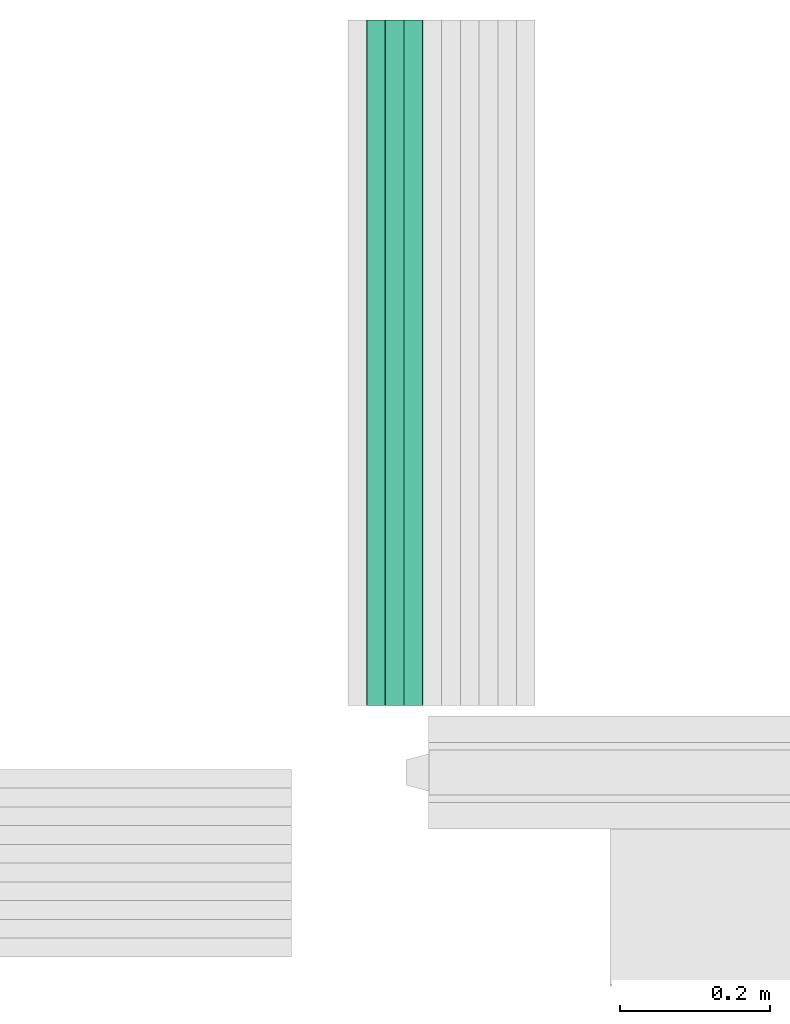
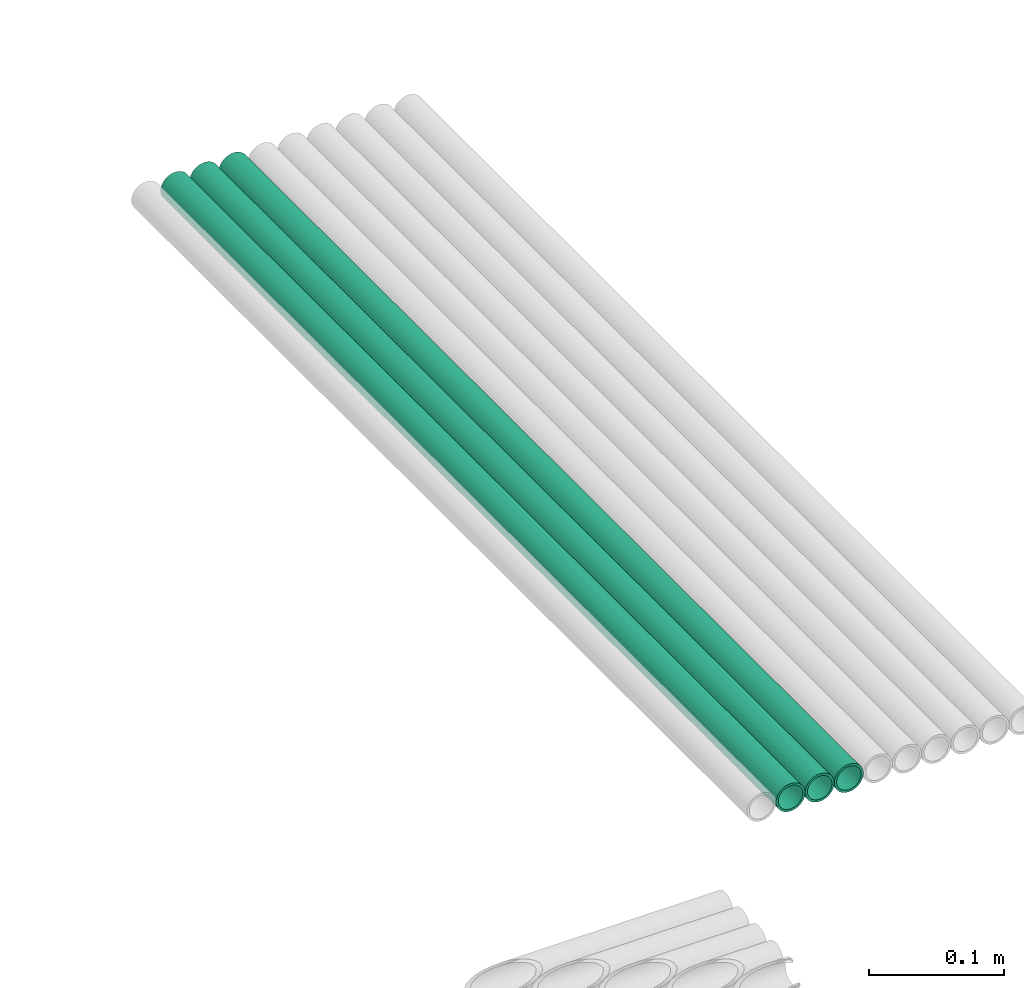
# One storey, part 12 of 14: 3 flow segments.
"""IFC2X3 building model written with IfcOpenShell, lengths in millimetres."""

from ifc_helpers import new_model, entity, si_unit, converted_unit, derived_unit, direction, frame, place, context, subcontext, project, spatial, faceted_brep, type_object, element, save


model = new_model("IFC2X3")

# Units and contexts
model_context = context("Model", 3, precision=0.01, world=frame((0.0, 4.29681676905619e-09, 0.0)), true_north=direction((4.01073788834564e-13, 1.0)))
plan_context = context("Plan", 3, precision=0.01, world=frame((0.0, 4.29681676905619e-09, 0.0)), true_north=direction((4.01073788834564e-13, 1.0)))
body_context = subcontext(model_context, "Body", "Model", "MODEL_VIEW")
ifc_project = project(units=[converted_unit("PLANEANGLEUNIT", "DEGREE", entity("IfcPositiveLengthMeasure", 0.0174532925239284), si_unit("PLANEANGLEUNIT", "RADIAN"), dimensions=[0, 0, 0, 0, 0, 0, 0]), si_unit("AREAUNIT", "SQUARE_METRE"), si_unit("LENGTHUNIT", "METRE", prefix="MILLI"), si_unit("MASSUNIT", "GRAM", prefix="KILO"), si_unit("POWERUNIT", "WATT"), si_unit("PRESSUREUNIT", "PASCAL", prefix="KILO"), si_unit("FORCEUNIT", "NEWTON", prefix="KILO"), si_unit("ELECTRICVOLTAGEUNIT", "VOLT"), si_unit("ELECTRICCURRENTUNIT", "AMPERE"), si_unit("THERMODYNAMICTEMPERATUREUNIT", "DEGREE_CELSIUS"), si_unit("TIMEUNIT", "SECOND"), si_unit("VOLUMEUNIT", "CUBIC_METRE"), derived_unit("LINEARVELOCITYUNIT", [(si_unit("LENGTHUNIT", "METRE"), 1), (si_unit("TIMEUNIT", "SECOND"), -1)]), derived_unit("VOLUMETRICFLOWRATEUNIT", [(si_unit("VOLUMEUNIT", "CUBIC_METRE"), 1), (si_unit("TIMEUNIT", "SECOND"), -1)]), derived_unit("THERMALTRANSMITTANCEUNIT", [(si_unit("POWERUNIT", "WATT"), 1), (si_unit("THERMODYNAMICTEMPERATUREUNIT", "KELVIN"), -1), (si_unit("AREAUNIT", "SQUARE_METRE"), -1)]), derived_unit("SOUNDPRESSUREUNIT", [(si_unit("PRESSUREUNIT", "PASCAL"), 1)])], contexts=[model_context, plan_context])

# Site, building, storey
site_placement = place(None, frame((0.0, -4.29681676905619e-09, 0.0), z_axis=(0.0, 0.0, 1.0), x_axis=(1.0, 0.0, 0.0)))
site = spatial("IfcSite", under=ifc_project, at=site_placement, Name="ENGM", CompositionType="ELEMENT")
building_placement = place(site_placement, frame((0.0, 4.29681676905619e-09, 0.0), z_axis=(0.0, 0.0, 1.0), x_axis=(1.0, 0.0, 0.0)))
building = spatial("IfcBuilding", under=site, at=building_placement, Name="TG", CompositionType="ELEMENT")
storey_placement = place(building_placement, frame((0.0, 0.0, 205200.0), z_axis=(0.0, 0.0, 1.0), x_axis=(1.0, 0.0, 0.0)))
storey = spatial("IfcBuildingStorey", under=building, at=storey_placement, Name="Nivå D + 1,2", CompositionType="ELEMENT", Elevation=205200.0)

# Flow segments
cable_carrier_segment_type = type_object("IfcCableCarrierSegmentType", Name="Conduit", PredefinedType="CONDUITSEGMENT")
flow_segment_1_placement = place(storey_placement, frame((332457.4875, 476415.04, 4970.0), z_axis=(0.0, 0.0, 1.0), x_axis=(0.0, -1.0, 0.0)))
element("IfcFlowSegment", 1, at=flow_segment_1_placement, inside=storey, type_object=cable_carrier_segment_type, Name="Conduit", context=body_context, shape_type="Brep", body=[
    faceted_brep([(8915.04000000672, 10.3404814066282, -1.82330586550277), (8915.04000000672, 10.5, 0.0), (9830.0, 10.5, 0.0), (9830.0, 10.3404814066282, -1.82330586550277), (8915.04000000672, 9.86677251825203, -3.59121150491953), (9830.0, 9.86677251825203, -3.59121150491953), (8915.04000000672, 9.0932667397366, -5.25), (9830.0, 9.0932667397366, -5.25), (8915.04000000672, 8.04346665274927, -6.74926990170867), (9830.0, 8.04346665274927, -6.74926990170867), (8915.04000000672, 6.74926990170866, -8.04346665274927), (9830.0, 6.74926990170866, -8.04346665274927), (8915.04000000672, 5.25, -9.09326673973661), (9830.0, 5.25, -9.09326673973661), (8915.04000000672, 3.59121150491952, -9.86677251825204), (9830.0, 3.59121150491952, -9.86677251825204), (8915.04000000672, 1.82330586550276, -10.3404814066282), (9830.0, 1.82330586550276, -10.3404814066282), (8915.04000000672, -1.92881870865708e-15, -10.5), (9830.0, -1.92881870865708e-15, -10.5), (8915.04000000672, -1.82330586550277, -10.3404814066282), (9830.0, -1.82330586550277, -10.3404814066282), (8915.04000000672, -3.59121150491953, -9.86677251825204), (9830.0, -3.59121150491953, -9.86677251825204), (8915.04000000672, -5.25, -9.0932667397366), (9830.0, -5.25, -9.0932667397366), (8915.04000000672, -6.74926990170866, -8.04346665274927), (9830.0, -6.74926990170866, -8.04346665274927), (8915.04000000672, -8.04346665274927, -6.74926990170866), (9830.0, -8.04346665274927, -6.74926990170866), (8915.04000000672, -9.09326673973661, -5.25), (9830.0, -9.09326673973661, -5.25), (8915.04000000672, -9.86677251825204, -3.59121150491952), (9830.0, -9.86677251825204, -3.59121150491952), (8915.04000000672, -10.3404814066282, -1.82330586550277), (9830.0, -10.3404814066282, -1.82330586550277), (8915.04000000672, -10.5, 1.28587913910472e-15), (9830.0, -10.5, 1.28587913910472e-15), (8915.04000000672, -10.3404814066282, 1.82330586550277), (9830.0, -10.3404814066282, 1.82330586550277), (8915.04000000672, -9.86677251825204, 3.59121150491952), (9830.0, -9.86677251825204, 3.59121150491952), (8915.04000000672, -9.09326673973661, 5.25), (9830.0, -9.09326673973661, 5.25), (8915.04000000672, -8.04346665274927, 6.74926990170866), (9830.0, -8.04346665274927, 6.74926990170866), (8915.04000000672, -6.74926990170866, 8.04346665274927), (9830.0, -6.74926990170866, 8.04346665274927), (8915.04000000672, -5.25, 9.09326673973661), (9830.0, -5.25, 9.09326673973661), (8915.04000000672, -3.59121150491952, 9.86677251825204), (9830.0, -3.59121150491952, 9.86677251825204), (8915.04000000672, -1.82330586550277, 10.3404814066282), (9830.0, -1.82330586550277, 10.3404814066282), (8915.04000000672, 6.4293956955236e-16, 10.5), (9830.0, 6.4293956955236e-16, 10.5), (8915.04000000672, 1.82330586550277, 10.3404814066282), (9830.0, 1.82330586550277, 10.3404814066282), (8915.04000000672, 3.59121150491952, 9.86677251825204), (9830.0, 3.59121150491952, 9.86677251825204), (8915.04000000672, 5.25, 9.09326673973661), (9830.0, 5.25, 9.09326673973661), (8915.04000000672, 6.74926990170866, 8.04346665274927), (9830.0, 6.74926990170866, 8.04346665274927), (8915.04000000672, 8.04346665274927, 6.74926990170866), (9830.0, 8.04346665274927, 6.74926990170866), (8915.04000000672, 9.09326673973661, 5.25), (9830.0, 9.09326673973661, 5.25), (8915.04000000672, 9.86677251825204, 3.59121150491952), (9830.0, 9.86677251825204, 3.59121150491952), (8915.04000000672, 10.3404814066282, 1.82330586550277), (9830.0, 10.3404814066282, 1.82330586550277), (8915.04000000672, 12.5, 0.0), (8915.04000000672, 12.3100969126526, -2.17060222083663), (9830.0, 12.3100969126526, -2.17060222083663), (9830.0, 12.5, 0.0), (8915.04000000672, 12.3100969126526, 2.17060222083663), (9830.0, 12.3100969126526, 2.17060222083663), (8915.04000000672, 11.7461577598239, 4.27525179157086), (9830.0, 11.7461577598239, 4.27525179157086), (8915.04000000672, 10.8253175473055, 6.25), (9830.0, 10.8253175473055, 6.25), (8915.04000000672, 9.57555553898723, 8.03484512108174), (9830.0, 9.57555553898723, 8.03484512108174), (8915.04000000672, 8.03484512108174, 9.57555553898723), (9830.0, 8.03484512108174, 9.57555553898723), (8915.04000000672, 6.25, 10.8253175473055), (9830.0, 6.25, 10.8253175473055), (8915.04000000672, 4.27525179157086, 11.7461577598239), (9830.0, 4.27525179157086, 11.7461577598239), (8915.04000000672, 2.17060222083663, 12.3100969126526), (9830.0, 2.17060222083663, 12.3100969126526), (8915.04000000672, 7.65404249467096e-16, 12.5), (9830.0, 7.65404249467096e-16, 12.5), (8915.04000000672, -2.17060222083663, 12.3100969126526), (9830.0, -2.17060222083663, 12.3100969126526), (8915.04000000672, -4.27525179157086, 11.7461577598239), (9830.0, -4.27525179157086, 11.7461577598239), (8915.04000000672, -6.25, 10.8253175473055), (9830.0, -6.25, 10.8253175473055), (8915.04000000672, -8.03484512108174, 9.57555553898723), (9830.0, -8.03484512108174, 9.57555553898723), (8915.04000000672, -9.57555553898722, 8.03484512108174), (9830.0, -9.57555553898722, 8.03484512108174), (8915.04000000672, -10.8253175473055, 6.25), (9830.0, -10.8253175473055, 6.25), (8915.04000000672, -11.7461577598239, 4.27525179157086), (9830.0, -11.7461577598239, 4.27525179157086), (8915.04000000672, -12.3100969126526, 2.17060222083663), (9830.0, -12.3100969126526, 2.17060222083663), (8915.04000000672, -12.5, 1.53080849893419e-15), (9830.0, -12.5, 1.53080849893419e-15), (8915.04000000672, -12.3100969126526, -2.17060222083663), (9830.0, -12.3100969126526, -2.17060222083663), (8915.04000000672, -11.7461577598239, -4.27525179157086), (9830.0, -11.7461577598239, -4.27525179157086), (8915.04000000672, -10.8253175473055, -6.25), (9830.0, -10.8253175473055, -6.25), (8915.04000000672, -9.57555553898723, -8.03484512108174), (9830.0, -9.57555553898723, -8.03484512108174), (8915.04000000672, -8.03484512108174, -9.57555553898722), (9830.0, -8.03484512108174, -9.57555553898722), (8915.04000000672, -6.25000000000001, -10.8253175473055), (9830.0, -6.25000000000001, -10.8253175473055), (8915.04000000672, -4.27525179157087, -11.7461577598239), (9830.0, -4.27525179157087, -11.7461577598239), (8915.04000000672, -2.17060222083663, -12.3100969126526), (9830.0, -2.17060222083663, -12.3100969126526), (8915.04000000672, -2.29621274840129e-15, -12.5), (9830.0, -2.29621274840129e-15, -12.5), (8915.04000000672, 2.17060222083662, -12.3100969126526), (9830.0, 2.17060222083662, -12.3100969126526), (8915.04000000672, 4.27525179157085, -11.7461577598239), (9830.0, 4.27525179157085, -11.7461577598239), (8915.04000000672, 6.25, -10.8253175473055), (9830.0, 6.25, -10.8253175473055), (8915.04000000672, 8.03484512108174, -9.57555553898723), (9830.0, 8.03484512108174, -9.57555553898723), (8915.04000000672, 9.57555553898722, -8.03484512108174), (9830.0, 9.57555553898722, -8.03484512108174), (8915.04000000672, 10.8253175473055, -6.25000000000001), (9830.0, 10.8253175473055, -6.25000000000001), (8915.04000000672, 11.7461577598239, -4.27525179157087), (9830.0, 11.7461577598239, -4.27525179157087)], [[[0, 1, 2, 3]], [[4, 0, 3, 5]], [[6, 4, 5, 7]], [[8, 6, 7, 9]], [[10, 8, 9, 11]], [[12, 10, 11, 13]], [[14, 12, 13, 15]], [[16, 14, 15, 17]], [[18, 16, 17, 19]], [[20, 18, 19, 21]], [[22, 20, 21, 23]], [[24, 22, 23, 25]], [[26, 24, 25, 27]], [[28, 26, 27, 29]], [[30, 28, 29, 31]], [[32, 30, 31, 33]], [[34, 32, 33, 35]], [[36, 34, 35, 37]], [[38, 36, 37, 39]], [[40, 38, 39, 41]], [[42, 40, 41, 43]], [[44, 42, 43, 45]], [[46, 44, 45, 47]], [[48, 46, 47, 49]], [[50, 48, 49, 51]], [[52, 50, 51, 53]], [[54, 52, 53, 55]], [[56, 54, 55, 57]], [[58, 56, 57, 59]], [[60, 58, 59, 61]], [[62, 60, 61, 63]], [[64, 62, 63, 65]], [[66, 64, 65, 67]], [[68, 66, 67, 69]], [[70, 68, 69, 71]], [[1, 70, 71, 2]], [[72, 73, 74, 75]], [[76, 72, 75, 77]], [[78, 76, 77, 79]], [[80, 78, 79, 81]], [[82, 80, 81, 83]], [[84, 82, 83, 85]], [[86, 84, 85, 87]], [[88, 86, 87, 89]], [[90, 88, 89, 91]], [[92, 90, 91, 93]], [[94, 92, 93, 95]], [[96, 94, 95, 97]], [[98, 96, 97, 99]], [[100, 98, 99, 101]], [[102, 100, 101, 103]], [[104, 102, 103, 105]], [[106, 104, 105, 107]], [[108, 106, 107, 109]], [[110, 108, 109, 111]], [[112, 110, 111, 113]], [[114, 112, 113, 115]], [[116, 114, 115, 117]], [[118, 116, 117, 119]], [[120, 118, 119, 121]], [[122, 120, 121, 123]], [[124, 122, 123, 125]], [[126, 124, 125, 127]], [[128, 126, 127, 129]], [[130, 128, 129, 131]], [[132, 130, 131, 133]], [[134, 132, 133, 135]], [[136, 134, 135, 137]], [[138, 136, 137, 139]], [[140, 138, 139, 141]], [[142, 140, 141, 143]], [[73, 142, 143, 74]], [[75, 74, 143, 141, 139, 137, 135, 133, 131, 129, 127, 125, 123, 121, 119, 117, 115, 113, 111, 109, 107, 105, 103, 101, 99, 97, 95, 93, 91, 89, 87, 85, 83, 81, 79, 77], [2, 71, 69, 67, 65, 63, 61, 59, 57, 55, 53, 51, 49, 47, 45, 43, 41, 39, 37, 35, 33, 31, 29, 27, 25, 23, 21, 19, 17, 15, 13, 11, 9, 7, 5, 3]], [[76, 78, 80, 82, 84, 86, 88, 90, 92, 94, 96, 98, 100, 102, 104, 106, 108, 110, 112, 114, 116, 118, 120, 122, 124, 126, 128, 130, 132, 134, 136, 138, 140, 142, 73, 72], [4, 6, 8, 10, 12, 14, 16, 18, 20, 22, 24, 26, 28, 30, 32, 34, 36, 38, 40, 42, 44, 46, 48, 50, 52, 54, 56, 58, 60, 62, 64, 66, 68, 70, 1, 0]]], orient=[[False], [False], [False], [False], [False], [False], [False], [False], [False], [False], [False], [False], [False], [False], [False], [False], [False], [False], [False], [False], [False], [False], [False], [False], [False], [False], [False], [False], [False], [False], [False], [False], [False], [False], [False], [False], [False], [False], [False], [False], [False], [False], [False], [False], [False], [False], [False], [False], [False], [False], [False], [False], [False], [False], [False], [False], [False], [False], [False], [False], [False], [False], [False], [False], [False], [False], [False], [False], [False], [False], [False], [False], [False, False], [False, False]]),
])
flow_segment_2_placement = place(storey_placement, frame((332432.4875, 476415.04, 4970.0), z_axis=(0.0, 0.0, 1.0), x_axis=(0.0, -1.0, 0.0)))
element("IfcFlowSegment", 2, at=flow_segment_2_placement, inside=storey, type_object=cable_carrier_segment_type, Name="Conduit", context=body_context, shape_type="Brep", body=[
    faceted_brep([(8915.04000000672, 10.3404814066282, -1.82330586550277), (8915.04000000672, 10.5, 0.0), (9830.0, 10.5, 0.0), (9830.0, 10.3404814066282, -1.82330586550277), (8915.04000000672, 9.86677251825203, -3.59121150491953), (9830.0, 9.86677251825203, -3.59121150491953), (8915.04000000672, 9.0932667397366, -5.25), (9830.0, 9.0932667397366, -5.25), (8915.04000000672, 8.04346665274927, -6.74926990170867), (9830.0, 8.04346665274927, -6.74926990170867), (8915.04000000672, 6.74926990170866, -8.04346665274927), (9830.0, 6.74926990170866, -8.04346665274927), (8915.04000000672, 5.25, -9.09326673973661), (9830.0, 5.25, -9.09326673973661), (8915.04000000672, 3.59121150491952, -9.86677251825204), (9830.0, 3.59121150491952, -9.86677251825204), (8915.04000000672, 1.82330586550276, -10.3404814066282), (9830.0, 1.82330586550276, -10.3404814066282), (8915.04000000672, -1.92881870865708e-15, -10.5), (9830.0, -1.92881870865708e-15, -10.5), (8915.04000000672, -1.82330586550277, -10.3404814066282), (9830.0, -1.82330586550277, -10.3404814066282), (8915.04000000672, -3.59121150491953, -9.86677251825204), (9830.0, -3.59121150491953, -9.86677251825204), (8915.04000000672, -5.25, -9.0932667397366), (9830.0, -5.25, -9.0932667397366), (8915.04000000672, -6.74926990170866, -8.04346665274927), (9830.0, -6.74926990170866, -8.04346665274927), (8915.04000000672, -8.04346665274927, -6.74926990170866), (9830.0, -8.04346665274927, -6.74926990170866), (8915.04000000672, -9.09326673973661, -5.25), (9830.0, -9.09326673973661, -5.25), (8915.04000000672, -9.86677251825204, -3.59121150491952), (9830.0, -9.86677251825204, -3.59121150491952), (8915.04000000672, -10.3404814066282, -1.82330586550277), (9830.0, -10.3404814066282, -1.82330586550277), (8915.04000000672, -10.5, 1.28587913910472e-15), (9830.0, -10.5, 1.28587913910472e-15), (8915.04000000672, -10.3404814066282, 1.82330586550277), (9830.0, -10.3404814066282, 1.82330586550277), (8915.04000000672, -9.86677251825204, 3.59121150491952), (9830.0, -9.86677251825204, 3.59121150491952), (8915.04000000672, -9.09326673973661, 5.25), (9830.0, -9.09326673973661, 5.25), (8915.04000000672, -8.04346665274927, 6.74926990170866), (9830.0, -8.04346665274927, 6.74926990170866), (8915.04000000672, -6.74926990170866, 8.04346665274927), (9830.0, -6.74926990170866, 8.04346665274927), (8915.04000000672, -5.25, 9.09326673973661), (9830.0, -5.25, 9.09326673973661), (8915.04000000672, -3.59121150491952, 9.86677251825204), (9830.0, -3.59121150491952, 9.86677251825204), (8915.04000000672, -1.82330586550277, 10.3404814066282), (9830.0, -1.82330586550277, 10.3404814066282), (8915.04000000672, 6.4293956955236e-16, 10.5), (9830.0, 6.4293956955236e-16, 10.5), (8915.04000000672, 1.82330586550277, 10.3404814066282), (9830.0, 1.82330586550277, 10.3404814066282), (8915.04000000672, 3.59121150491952, 9.86677251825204), (9830.0, 3.59121150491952, 9.86677251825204), (8915.04000000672, 5.25, 9.09326673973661), (9830.0, 5.25, 9.09326673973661), (8915.04000000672, 6.74926990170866, 8.04346665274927), (9830.0, 6.74926990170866, 8.04346665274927), (8915.04000000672, 8.04346665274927, 6.74926990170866), (9830.0, 8.04346665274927, 6.74926990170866), (8915.04000000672, 9.09326673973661, 5.25), (9830.0, 9.09326673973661, 5.25), (8915.04000000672, 9.86677251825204, 3.59121150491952), (9830.0, 9.86677251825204, 3.59121150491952), (8915.04000000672, 10.3404814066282, 1.82330586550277), (9830.0, 10.3404814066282, 1.82330586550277), (8915.04000000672, 12.5, 0.0), (8915.04000000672, 12.3100969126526, -2.17060222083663), (9830.0, 12.3100969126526, -2.17060222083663), (9830.0, 12.5, 0.0), (8915.04000000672, 12.3100969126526, 2.17060222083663), (9830.0, 12.3100969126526, 2.17060222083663), (8915.04000000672, 11.7461577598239, 4.27525179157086), (9830.0, 11.7461577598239, 4.27525179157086), (8915.04000000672, 10.8253175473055, 6.25), (9830.0, 10.8253175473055, 6.25), (8915.04000000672, 9.57555553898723, 8.03484512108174), (9830.0, 9.57555553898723, 8.03484512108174), (8915.04000000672, 8.03484512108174, 9.57555553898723), (9830.0, 8.03484512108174, 9.57555553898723), (8915.04000000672, 6.25, 10.8253175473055), (9830.0, 6.25, 10.8253175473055), (8915.04000000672, 4.27525179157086, 11.7461577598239), (9830.0, 4.27525179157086, 11.7461577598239), (8915.04000000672, 2.17060222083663, 12.3100969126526), (9830.0, 2.17060222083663, 12.3100969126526), (8915.04000000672, 7.65404249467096e-16, 12.5), (9830.0, 7.65404249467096e-16, 12.5), (8915.04000000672, -2.17060222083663, 12.3100969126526), (9830.0, -2.17060222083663, 12.3100969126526), (8915.04000000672, -4.27525179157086, 11.7461577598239), (9830.0, -4.27525179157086, 11.7461577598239), (8915.04000000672, -6.25, 10.8253175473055), (9830.0, -6.25, 10.8253175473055), (8915.04000000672, -8.03484512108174, 9.57555553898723), (9830.0, -8.03484512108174, 9.57555553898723), (8915.04000000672, -9.57555553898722, 8.03484512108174), (9830.0, -9.57555553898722, 8.03484512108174), (8915.04000000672, -10.8253175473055, 6.25), (9830.0, -10.8253175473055, 6.25), (8915.04000000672, -11.7461577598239, 4.27525179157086), (9830.0, -11.7461577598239, 4.27525179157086), (8915.04000000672, -12.3100969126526, 2.17060222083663), (9830.0, -12.3100969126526, 2.17060222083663), (8915.04000000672, -12.5, 1.53080849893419e-15), (9830.0, -12.5, 1.53080849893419e-15), (8915.04000000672, -12.3100969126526, -2.17060222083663), (9830.0, -12.3100969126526, -2.17060222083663), (8915.04000000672, -11.7461577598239, -4.27525179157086), (9830.0, -11.7461577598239, -4.27525179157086), (8915.04000000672, -10.8253175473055, -6.25), (9830.0, -10.8253175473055, -6.25), (8915.04000000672, -9.57555553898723, -8.03484512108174), (9830.0, -9.57555553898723, -8.03484512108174), (8915.04000000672, -8.03484512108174, -9.57555553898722), (9830.0, -8.03484512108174, -9.57555553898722), (8915.04000000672, -6.25000000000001, -10.8253175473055), (9830.0, -6.25000000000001, -10.8253175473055), (8915.04000000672, -4.27525179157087, -11.7461577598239), (9830.0, -4.27525179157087, -11.7461577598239), (8915.04000000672, -2.17060222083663, -12.3100969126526), (9830.0, -2.17060222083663, -12.3100969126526), (8915.04000000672, -2.29621274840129e-15, -12.5), (9830.0, -2.29621274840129e-15, -12.5), (8915.04000000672, 2.17060222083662, -12.3100969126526), (9830.0, 2.17060222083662, -12.3100969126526), (8915.04000000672, 4.27525179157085, -11.7461577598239), (9830.0, 4.27525179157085, -11.7461577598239), (8915.04000000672, 6.25, -10.8253175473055), (9830.0, 6.25, -10.8253175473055), (8915.04000000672, 8.03484512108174, -9.57555553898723), (9830.0, 8.03484512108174, -9.57555553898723), (8915.04000000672, 9.57555553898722, -8.03484512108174), (9830.0, 9.57555553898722, -8.03484512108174), (8915.04000000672, 10.8253175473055, -6.25000000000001), (9830.0, 10.8253175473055, -6.25000000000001), (8915.04000000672, 11.7461577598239, -4.27525179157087), (9830.0, 11.7461577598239, -4.27525179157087)], [[[0, 1, 2, 3]], [[4, 0, 3, 5]], [[6, 4, 5, 7]], [[8, 6, 7, 9]], [[10, 8, 9, 11]], [[12, 10, 11, 13]], [[14, 12, 13, 15]], [[16, 14, 15, 17]], [[18, 16, 17, 19]], [[20, 18, 19, 21]], [[22, 20, 21, 23]], [[24, 22, 23, 25]], [[26, 24, 25, 27]], [[28, 26, 27, 29]], [[30, 28, 29, 31]], [[32, 30, 31, 33]], [[34, 32, 33, 35]], [[36, 34, 35, 37]], [[38, 36, 37, 39]], [[40, 38, 39, 41]], [[42, 40, 41, 43]], [[44, 42, 43, 45]], [[46, 44, 45, 47]], [[48, 46, 47, 49]], [[50, 48, 49, 51]], [[52, 50, 51, 53]], [[54, 52, 53, 55]], [[56, 54, 55, 57]], [[58, 56, 57, 59]], [[60, 58, 59, 61]], [[62, 60, 61, 63]], [[64, 62, 63, 65]], [[66, 64, 65, 67]], [[68, 66, 67, 69]], [[70, 68, 69, 71]], [[1, 70, 71, 2]], [[72, 73, 74, 75]], [[76, 72, 75, 77]], [[78, 76, 77, 79]], [[80, 78, 79, 81]], [[82, 80, 81, 83]], [[84, 82, 83, 85]], [[86, 84, 85, 87]], [[88, 86, 87, 89]], [[90, 88, 89, 91]], [[92, 90, 91, 93]], [[94, 92, 93, 95]], [[96, 94, 95, 97]], [[98, 96, 97, 99]], [[100, 98, 99, 101]], [[102, 100, 101, 103]], [[104, 102, 103, 105]], [[106, 104, 105, 107]], [[108, 106, 107, 109]], [[110, 108, 109, 111]], [[112, 110, 111, 113]], [[114, 112, 113, 115]], [[116, 114, 115, 117]], [[118, 116, 117, 119]], [[120, 118, 119, 121]], [[122, 120, 121, 123]], [[124, 122, 123, 125]], [[126, 124, 125, 127]], [[128, 126, 127, 129]], [[130, 128, 129, 131]], [[132, 130, 131, 133]], [[134, 132, 133, 135]], [[136, 134, 135, 137]], [[138, 136, 137, 139]], [[140, 138, 139, 141]], [[142, 140, 141, 143]], [[73, 142, 143, 74]], [[75, 74, 143, 141, 139, 137, 135, 133, 131, 129, 127, 125, 123, 121, 119, 117, 115, 113, 111, 109, 107, 105, 103, 101, 99, 97, 95, 93, 91, 89, 87, 85, 83, 81, 79, 77], [2, 71, 69, 67, 65, 63, 61, 59, 57, 55, 53, 51, 49, 47, 45, 43, 41, 39, 37, 35, 33, 31, 29, 27, 25, 23, 21, 19, 17, 15, 13, 11, 9, 7, 5, 3]], [[76, 78, 80, 82, 84, 86, 88, 90, 92, 94, 96, 98, 100, 102, 104, 106, 108, 110, 112, 114, 116, 118, 120, 122, 124, 126, 128, 130, 132, 134, 136, 138, 140, 142, 73, 72], [4, 6, 8, 10, 12, 14, 16, 18, 20, 22, 24, 26, 28, 30, 32, 34, 36, 38, 40, 42, 44, 46, 48, 50, 52, 54, 56, 58, 60, 62, 64, 66, 68, 70, 1, 0]]], orient=[[False], [False], [False], [False], [False], [False], [False], [False], [False], [False], [False], [False], [False], [False], [False], [False], [False], [False], [False], [False], [False], [False], [False], [False], [False], [False], [False], [False], [False], [False], [False], [False], [False], [False], [False], [False], [False], [False], [False], [False], [False], [False], [False], [False], [False], [False], [False], [False], [False], [False], [False], [False], [False], [False], [False], [False], [False], [False], [False], [False], [False], [False], [False], [False], [False], [False], [False], [False], [False], [False], [False], [False], [False, False], [False, False]]),
])
flow_segment_3_placement = place(storey_placement, frame((332407.4875, 476415.04, 4970.0), z_axis=(0.0, 0.0, 1.0), x_axis=(0.0, -1.0, 0.0)))
element("IfcFlowSegment", 3, at=flow_segment_3_placement, inside=storey, type_object=cable_carrier_segment_type, Name="Conduit", context=body_context, shape_type="Brep", body=[
    faceted_brep([(8915.04000000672, 10.3404814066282, -1.82330586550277), (8915.04000000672, 10.5, 0.0), (9830.0, 10.5, 0.0), (9830.0, 10.3404814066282, -1.82330586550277), (8915.04000000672, 9.86677251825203, -3.59121150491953), (9830.0, 9.86677251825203, -3.59121150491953), (8915.04000000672, 9.0932667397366, -5.25), (9830.0, 9.0932667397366, -5.25), (8915.04000000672, 8.04346665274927, -6.74926990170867), (9830.0, 8.04346665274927, -6.74926990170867), (8915.04000000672, 6.74926990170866, -8.04346665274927), (9830.0, 6.74926990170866, -8.04346665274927), (8915.04000000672, 5.25, -9.09326673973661), (9830.0, 5.25, -9.09326673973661), (8915.04000000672, 3.59121150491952, -9.86677251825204), (9830.0, 3.59121150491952, -9.86677251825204), (8915.04000000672, 1.82330586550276, -10.3404814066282), (9830.0, 1.82330586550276, -10.3404814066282), (8915.04000000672, -1.92881870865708e-15, -10.5), (9830.0, -1.92881870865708e-15, -10.5), (8915.04000000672, -1.82330586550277, -10.3404814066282), (9830.0, -1.82330586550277, -10.3404814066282), (8915.04000000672, -3.59121150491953, -9.86677251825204), (9830.0, -3.59121150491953, -9.86677251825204), (8915.04000000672, -5.25, -9.0932667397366), (9830.0, -5.25, -9.0932667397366), (8915.04000000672, -6.74926990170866, -8.04346665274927), (9830.0, -6.74926990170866, -8.04346665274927), (8915.04000000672, -8.04346665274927, -6.74926990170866), (9830.0, -8.04346665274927, -6.74926990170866), (8915.04000000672, -9.09326673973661, -5.25), (9830.0, -9.09326673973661, -5.25), (8915.04000000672, -9.86677251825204, -3.59121150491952), (9830.0, -9.86677251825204, -3.59121150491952), (8915.04000000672, -10.3404814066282, -1.82330586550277), (9830.0, -10.3404814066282, -1.82330586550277), (8915.04000000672, -10.5, 1.28587913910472e-15), (9830.0, -10.5, 1.28587913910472e-15), (8915.04000000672, -10.3404814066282, 1.82330586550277), (9830.0, -10.3404814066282, 1.82330586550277), (8915.04000000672, -9.86677251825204, 3.59121150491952), (9830.0, -9.86677251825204, 3.59121150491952), (8915.04000000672, -9.09326673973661, 5.25), (9830.0, -9.09326673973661, 5.25), (8915.04000000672, -8.04346665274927, 6.74926990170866), (9830.0, -8.04346665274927, 6.74926990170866), (8915.04000000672, -6.74926990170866, 8.04346665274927), (9830.0, -6.74926990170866, 8.04346665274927), (8915.04000000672, -5.25, 9.09326673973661), (9830.0, -5.25, 9.09326673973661), (8915.04000000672, -3.59121150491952, 9.86677251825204), (9830.0, -3.59121150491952, 9.86677251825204), (8915.04000000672, -1.82330586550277, 10.3404814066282), (9830.0, -1.82330586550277, 10.3404814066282), (8915.04000000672, 6.4293956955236e-16, 10.5), (9830.0, 6.4293956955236e-16, 10.5), (8915.04000000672, 1.82330586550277, 10.3404814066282), (9830.0, 1.82330586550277, 10.3404814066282), (8915.04000000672, 3.59121150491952, 9.86677251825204), (9830.0, 3.59121150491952, 9.86677251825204), (8915.04000000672, 5.25, 9.09326673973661), (9830.0, 5.25, 9.09326673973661), (8915.04000000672, 6.74926990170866, 8.04346665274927), (9830.0, 6.74926990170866, 8.04346665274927), (8915.04000000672, 8.04346665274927, 6.74926990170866), (9830.0, 8.04346665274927, 6.74926990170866), (8915.04000000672, 9.09326673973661, 5.25), (9830.0, 9.09326673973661, 5.25), (8915.04000000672, 9.86677251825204, 3.59121150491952), (9830.0, 9.86677251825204, 3.59121150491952), (8915.04000000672, 10.3404814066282, 1.82330586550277), (9830.0, 10.3404814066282, 1.82330586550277), (8915.04000000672, 12.5, 0.0), (8915.04000000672, 12.3100969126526, -2.17060222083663), (9830.0, 12.3100969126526, -2.17060222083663), (9830.0, 12.5, 0.0), (8915.04000000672, 12.3100969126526, 2.17060222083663), (9830.0, 12.3100969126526, 2.17060222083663), (8915.04000000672, 11.7461577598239, 4.27525179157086), (9830.0, 11.7461577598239, 4.27525179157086), (8915.04000000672, 10.8253175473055, 6.25), (9830.0, 10.8253175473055, 6.25), (8915.04000000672, 9.57555553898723, 8.03484512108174), (9830.0, 9.57555553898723, 8.03484512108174), (8915.04000000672, 8.03484512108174, 9.57555553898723), (9830.0, 8.03484512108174, 9.57555553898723), (8915.04000000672, 6.25, 10.8253175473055), (9830.0, 6.25, 10.8253175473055), (8915.04000000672, 4.27525179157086, 11.7461577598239), (9830.0, 4.27525179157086, 11.7461577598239), (8915.04000000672, 2.17060222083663, 12.3100969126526), (9830.0, 2.17060222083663, 12.3100969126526), (8915.04000000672, 7.65404249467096e-16, 12.5), (9830.0, 7.65404249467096e-16, 12.5), (8915.04000000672, -2.17060222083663, 12.3100969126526), (9830.0, -2.17060222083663, 12.3100969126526), (8915.04000000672, -4.27525179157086, 11.7461577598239), (9830.0, -4.27525179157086, 11.7461577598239), (8915.04000000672, -6.25, 10.8253175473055), (9830.0, -6.25, 10.8253175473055), (8915.04000000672, -8.03484512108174, 9.57555553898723), (9830.0, -8.03484512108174, 9.57555553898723), (8915.04000000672, -9.57555553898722, 8.03484512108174), (9830.0, -9.57555553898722, 8.03484512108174), (8915.04000000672, -10.8253175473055, 6.25), (9830.0, -10.8253175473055, 6.25), (8915.04000000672, -11.7461577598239, 4.27525179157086), (9830.0, -11.7461577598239, 4.27525179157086), (8915.04000000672, -12.3100969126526, 2.17060222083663), (9830.0, -12.3100969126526, 2.17060222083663), (8915.04000000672, -12.5, 1.53080849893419e-15), (9830.0, -12.5, 1.53080849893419e-15), (8915.04000000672, -12.3100969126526, -2.17060222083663), (9830.0, -12.3100969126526, -2.17060222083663), (8915.04000000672, -11.7461577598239, -4.27525179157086), (9830.0, -11.7461577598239, -4.27525179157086), (8915.04000000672, -10.8253175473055, -6.25), (9830.0, -10.8253175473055, -6.25), (8915.04000000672, -9.57555553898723, -8.03484512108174), (9830.0, -9.57555553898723, -8.03484512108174), (8915.04000000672, -8.03484512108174, -9.57555553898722), (9830.0, -8.03484512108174, -9.57555553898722), (8915.04000000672, -6.25000000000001, -10.8253175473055), (9830.0, -6.25000000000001, -10.8253175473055), (8915.04000000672, -4.27525179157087, -11.7461577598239), (9830.0, -4.27525179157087, -11.7461577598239), (8915.04000000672, -2.17060222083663, -12.3100969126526), (9830.0, -2.17060222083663, -12.3100969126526), (8915.04000000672, -2.29621274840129e-15, -12.5), (9830.0, -2.29621274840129e-15, -12.5), (8915.04000000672, 2.17060222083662, -12.3100969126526), (9830.0, 2.17060222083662, -12.3100969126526), (8915.04000000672, 4.27525179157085, -11.7461577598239), (9830.0, 4.27525179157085, -11.7461577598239), (8915.04000000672, 6.25, -10.8253175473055), (9830.0, 6.25, -10.8253175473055), (8915.04000000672, 8.03484512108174, -9.57555553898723), (9830.0, 8.03484512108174, -9.57555553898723), (8915.04000000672, 9.57555553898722, -8.03484512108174), (9830.0, 9.57555553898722, -8.03484512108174), (8915.04000000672, 10.8253175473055, -6.25000000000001), (9830.0, 10.8253175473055, -6.25000000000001), (8915.04000000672, 11.7461577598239, -4.27525179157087), (9830.0, 11.7461577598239, -4.27525179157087)], [[[0, 1, 2, 3]], [[4, 0, 3, 5]], [[6, 4, 5, 7]], [[8, 6, 7, 9]], [[10, 8, 9, 11]], [[12, 10, 11, 13]], [[14, 12, 13, 15]], [[16, 14, 15, 17]], [[18, 16, 17, 19]], [[20, 18, 19, 21]], [[22, 20, 21, 23]], [[24, 22, 23, 25]], [[26, 24, 25, 27]], [[28, 26, 27, 29]], [[30, 28, 29, 31]], [[32, 30, 31, 33]], [[34, 32, 33, 35]], [[36, 34, 35, 37]], [[38, 36, 37, 39]], [[40, 38, 39, 41]], [[42, 40, 41, 43]], [[44, 42, 43, 45]], [[46, 44, 45, 47]], [[48, 46, 47, 49]], [[50, 48, 49, 51]], [[52, 50, 51, 53]], [[54, 52, 53, 55]], [[56, 54, 55, 57]], [[58, 56, 57, 59]], [[60, 58, 59, 61]], [[62, 60, 61, 63]], [[64, 62, 63, 65]], [[66, 64, 65, 67]], [[68, 66, 67, 69]], [[70, 68, 69, 71]], [[1, 70, 71, 2]], [[72, 73, 74, 75]], [[76, 72, 75, 77]], [[78, 76, 77, 79]], [[80, 78, 79, 81]], [[82, 80, 81, 83]], [[84, 82, 83, 85]], [[86, 84, 85, 87]], [[88, 86, 87, 89]], [[90, 88, 89, 91]], [[92, 90, 91, 93]], [[94, 92, 93, 95]], [[96, 94, 95, 97]], [[98, 96, 97, 99]], [[100, 98, 99, 101]], [[102, 100, 101, 103]], [[104, 102, 103, 105]], [[106, 104, 105, 107]], [[108, 106, 107, 109]], [[110, 108, 109, 111]], [[112, 110, 111, 113]], [[114, 112, 113, 115]], [[116, 114, 115, 117]], [[118, 116, 117, 119]], [[120, 118, 119, 121]], [[122, 120, 121, 123]], [[124, 122, 123, 125]], [[126, 124, 125, 127]], [[128, 126, 127, 129]], [[130, 128, 129, 131]], [[132, 130, 131, 133]], [[134, 132, 133, 135]], [[136, 134, 135, 137]], [[138, 136, 137, 139]], [[140, 138, 139, 141]], [[142, 140, 141, 143]], [[73, 142, 143, 74]], [[75, 74, 143, 141, 139, 137, 135, 133, 131, 129, 127, 125, 123, 121, 119, 117, 115, 113, 111, 109, 107, 105, 103, 101, 99, 97, 95, 93, 91, 89, 87, 85, 83, 81, 79, 77], [2, 71, 69, 67, 65, 63, 61, 59, 57, 55, 53, 51, 49, 47, 45, 43, 41, 39, 37, 35, 33, 31, 29, 27, 25, 23, 21, 19, 17, 15, 13, 11, 9, 7, 5, 3]], [[76, 78, 80, 82, 84, 86, 88, 90, 92, 94, 96, 98, 100, 102, 104, 106, 108, 110, 112, 114, 116, 118, 120, 122, 124, 126, 128, 130, 132, 134, 136, 138, 140, 142, 73, 72], [4, 6, 8, 10, 12, 14, 16, 18, 20, 22, 24, 26, 28, 30, 32, 34, 36, 38, 40, 42, 44, 46, 48, 50, 52, 54, 56, 58, 60, 62, 64, 66, 68, 70, 1, 0]]], orient=[[False], [False], [False], [False], [False], [False], [False], [False], [False], [False], [False], [False], [False], [False], [False], [False], [False], [False], [False], [False], [False], [False], [False], [False], [False], [False], [False], [False], [False], [False], [False], [False], [False], [False], [False], [False], [False], [False], [False], [False], [False], [False], [False], [False], [False], [False], [False], [False], [False], [False], [False], [False], [False], [False], [False], [False], [False], [False], [False], [False], [False], [False], [False], [False], [False], [False], [False], [False], [False], [False], [False], [False], [False, False], [False, False]]),
])

save(model, "model.ifc")
